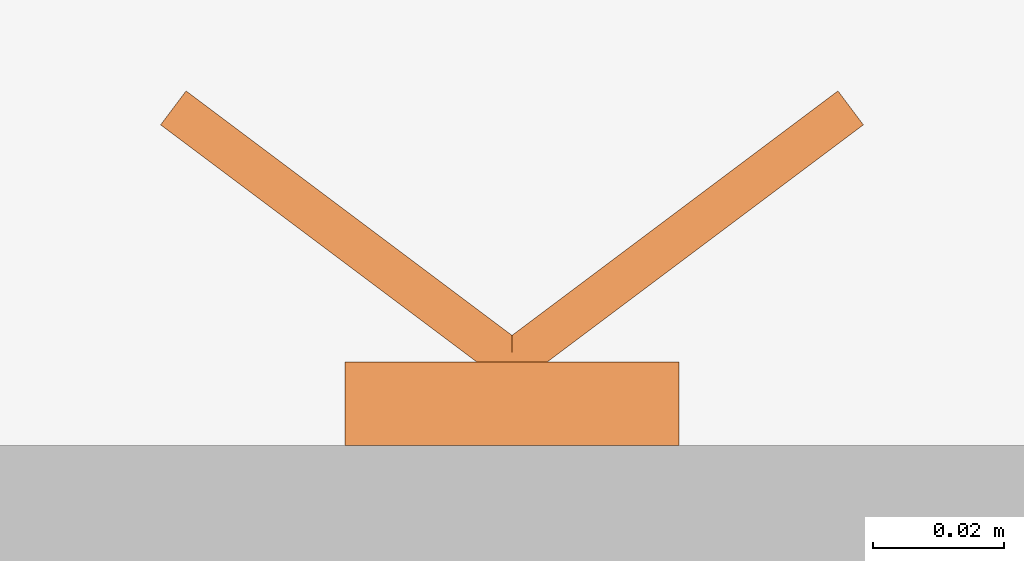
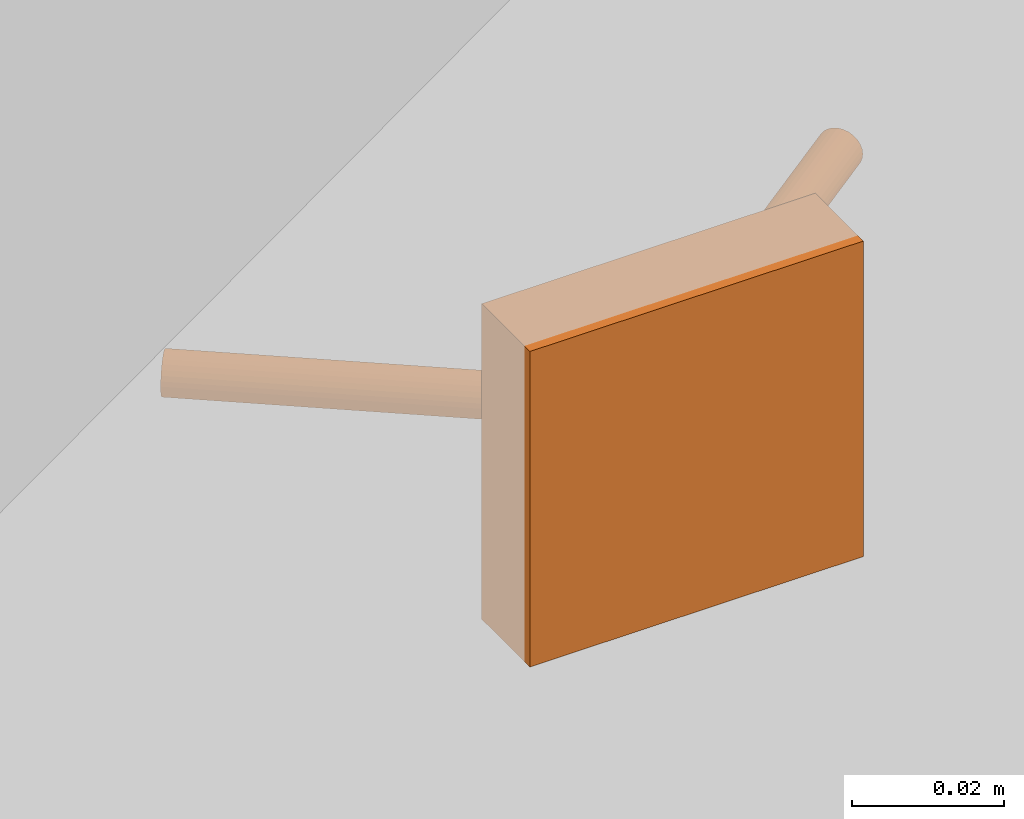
# One storey, part 118 of 142: 1 proxy.
"""IFC2X3 building model written with IfcOpenShell, lengths in feet."""

import ifcopenshell
import ifcopenshell.guid

model = None  # the IFC model being written
_history = None  # IfcOwnerHistory: only IFC2X3 demands one
_inside = {}  # id of a spatial element -> (the spatial element, [elements in it])
_under = {}  # id of a project, library or spatial element -> (it, [spatial elements below it])
_declared = {}  # id of a project -> (the project, [libraries it declares])
_typed = {}  # id of a type object -> (the type object, [elements of that type])
_made_of = {}  # id of a material, layer set ... -> (it, [elements and type objects made of it])


def new_model(schema):
    """Start an empty IFC model of exactly this schema.

    Asked for "IFC4X3", IfcOpenShell would pick the latest addendum, in which some entities
    have other attributes; the version numbers below select the first issue.
    IFC2X3 requires an IfcOwnerHistory on every rooted entity: one is made here for all.
    """
    global model, _history
    if schema == "IFC4X3":
        model = ifcopenshell.file(schema_version=(4, 3, 0, 0))
    else:
        model = ifcopenshell.file(schema=schema)
    _inside.clear()
    _under.clear()
    _declared.clear()
    _typed.clear()
    _made_of.clear()
    _history = None
    if model.schema == "IFC2X3":
        org = make("IfcOrganization", Name="unknown")
        user = make(
            "IfcPersonAndOrganization",
            ThePerson=make("IfcPerson", FamilyName="unknown"),
            TheOrganization=org,
        )
        app = make(
            "IfcApplication",
            ApplicationDeveloper=org,
            Version="unknown",
            ApplicationFullName="unknown",
            ApplicationIdentifier="unknown",
        )
        _history = make(
            "IfcOwnerHistory",
            OwningUser=user,
            OwningApplication=app,
            ChangeAction="ADDED",
            CreationDate=0,
        )
    return model


def make(cls, **values):
    """One entity of the class cls with the attributes given. An attribute that is None is left unset."""
    return model.create_entity(
        cls, **{name: value for name, value in values.items() if value is not None}
    )


def entity(cls, *values):
    """Any entity or typed value of the class cls, its attributes in the order of the schema. None: left unset."""
    e = model.create_entity(cls)
    for i, value in enumerate(values):
        if value is not None:
            e[i] = value
    return e


def rooted(cls, **values):
    """An entity with a GlobalId (a new one), such as an element, a storey or a relation."""
    return make(cls, GlobalId=ifcopenshell.guid.new(), OwnerHistory=_history, **values)


def si_unit(unit_type, name, prefix=None):
    """IfcSIUnit, for example si_unit("LENGTHUNIT", "METRE", prefix="MILLI")."""
    return make("IfcSIUnit", UnitType=unit_type, Prefix=prefix, Name=name)


def converted_unit(unit_type, name, factor, base, dimensions=None, offset=None):
    """IfcConversionBasedUnit, such as the inch: factor (a typed value) times the base unit."""
    return make(
        "IfcConversionBasedUnit"
        if offset is None
        else "IfcConversionBasedUnitWithOffset",
        ConversionOffset=offset,
        Dimensions=None
        if dimensions is None
        else entity("IfcDimensionalExponents", *dimensions),
        UnitType=unit_type,
        Name=name,
        ConversionFactor=make(
            "IfcMeasureWithUnit", ValueComponent=factor, UnitComponent=base
        ),
    )


def derived_unit(unit_type, elements):
    """IfcDerivedUnit: a product of units, each with its exponent."""
    return make(
        "IfcDerivedUnit",
        Elements=[
            make("IfcDerivedUnitElement", Unit=unit, Exponent=power)
            for unit, power in elements
        ],
        UnitType=unit_type,
    )


def assignment(units):
    """IfcUnitAssignment: the units of a project."""
    return None if units is None else make("IfcUnitAssignment", Units=units)


def point(xyz):
    """IfcCartesianPoint."""
    return None if xyz is None else make("IfcCartesianPoint", Coordinates=xyz)


def direction(xyz):
    """IfcDirection."""
    return None if xyz is None else make("IfcDirection", DirectionRatios=xyz)


def frame(location, z_axis=None, x_axis=None):
    """IfcAxis2Placement3D, a coordinate frame: its origin and axes. An axis left out is left unset."""
    return make(
        "IfcAxis2Placement3D",
        Location=point(location),
        Axis=direction(z_axis),
        RefDirection=direction(x_axis),
    )


def frame_2d(location, x_axis=None):
    """IfcAxis2Placement2D, a coordinate frame in the plane: its origin and x axis."""
    return make(
        "IfcAxis2Placement2D", Location=point(location), RefDirection=direction(x_axis)
    )


def origin():
    """The frame at (0, 0, 0) with its axes left unset."""
    return frame((0.0, 0.0, 0.0))


def origin_2d_with_axis():
    """The frame at (0, 0) in the plane with the x axis (1, 0) written out."""
    return frame_2d((0.0, 0.0), x_axis=(1.0, 0.0))


def place(relative_to, where):
    """IfcLocalPlacement: puts the frame where relative to a parent placement (None: the world)."""
    return make(
        "IfcLocalPlacement", PlacementRelTo=relative_to, RelativePlacement=where
    )


def context(
    kind, dimensions, precision=None, world=None, true_north=None, identifier=None
):
    """IfcGeometricRepresentationContext, for example the 3D "Model" context."""
    return make(
        "IfcGeometricRepresentationContext",
        ContextIdentifier=identifier,
        ContextType=kind,
        CoordinateSpaceDimension=dimensions,
        Precision=precision,
        WorldCoordinateSystem=world,
        TrueNorth=true_north,
    )


def subcontext(parent, identifier, kind, view, scale=None):
    """IfcGeometricRepresentationSubContext, for example "Body" below "Model"."""
    return make(
        "IfcGeometricRepresentationSubContext",
        ContextIdentifier=identifier,
        ContextType=kind,
        ParentContext=parent,
        TargetScale=scale,
        TargetView=view,
    )


def project(units=None, contexts=None):
    """IfcProject with its units and contexts."""
    return rooted(
        "IfcProject",
        Name="project",
        RepresentationContexts=contexts,
        UnitsInContext=assignment(units),
    )


def spatial(cls, under=None, at=None, **own):
    """A site, building, storey or space (cls), placed at a placement, below another one or the project."""
    s = rooted(cls, ObjectPlacement=at, **own)
    if under is not None:
        _under.setdefault(under.id(), (under, []))[1].append(s)
    return s


def profile(cls, at=None, kind="AREA", **sizes):
    """A parametric profile (cls). Its sizes go by their IFC names, for example OverallWidth=200.0."""
    return make(cls, ProfileType=kind, Position=at, **sizes)


def rectangle(**sizes):
    """IfcRectangleProfileDef."""
    return profile("IfcRectangleProfileDef", **sizes)


def circle(**sizes):
    """IfcCircleProfileDef."""
    return profile("IfcCircleProfileDef", **sizes)


def extrude(swept, where, along, depth):
    """IfcExtrudedAreaSolid: the profile swept, set in the frame where, extruded along a direction by depth."""
    return make(
        "IfcExtrudedAreaSolid",
        SweptArea=swept,
        Position=where,
        ExtrudedDirection=direction(along),
        Depth=depth,
    )


def shape(context_of_items, identifier, shape_type, items):
    """IfcShapeRepresentation: the items that make up one representation, for example the "Body"."""
    return make(
        "IfcShapeRepresentation",
        ContextOfItems=context_of_items,
        RepresentationIdentifier=identifier,
        RepresentationType=shape_type,
        Items=items,
    )


def source(mapping_origin, context_of_items, identifier, shape_type, items):
    """IfcRepresentationMap: a shape defined once, which mapped items show again and again."""
    return make(
        "IfcRepresentationMap",
        MappingOrigin=mapping_origin,
        MappedRepresentation=shape(context_of_items, identifier, shape_type, items),
    )


def transform(
    local_origin,
    x_axis=None,
    y_axis=None,
    z_axis=None,
    scale=None,
    scale2=None,
    scale3=None,
    uniform=True,
):
    """IfcCartesianTransformationOperator3D, or its non-uniform kind. x_axis, y_axis, z_axis: its Axis1, 2, 3."""
    if uniform:
        return make(
            "IfcCartesianTransformationOperator3D",
            Axis1=direction(x_axis),
            Axis2=direction(y_axis),
            LocalOrigin=point(local_origin),
            Scale=scale,
            Axis3=direction(z_axis),
        )
    return make(
        "IfcCartesianTransformationOperator3DnonUniform",
        Axis1=direction(x_axis),
        Axis2=direction(y_axis),
        LocalOrigin=point(local_origin),
        Scale=scale,
        Axis3=direction(z_axis),
        Scale2=scale2,
        Scale3=scale3,
    )


def mapped(mapping_source, mapping_target):
    """IfcMappedItem: shows the shape of a source again, moved by a transform."""
    return make(
        "IfcMappedItem", MappingSource=mapping_source, MappingTarget=mapping_target
    )


def made_of(thing, what):
    """Note that an element or type object is made of a material, layer set ...; save() writes the relation."""
    if what is not None:
        _made_of.setdefault(what.id(), (what, []))[1].append(thing)
    return thing


def type_object(cls, material=None, **own):
    """A type object (cls), such as IfcWallType, which elements share."""
    return made_of(rooted(cls, **own), material)


def type_shapes(of_type, sources):
    """Give a type object the sources (RepresentationMaps) that its elements show as mapped items."""
    of_type.RepresentationMaps = sources


def element(
    cls,
    number,
    at=None,
    inside=None,
    cuts=None,
    type_object=None,
    material=None,
    context=None,
    identifier="Body",
    shape_type=None,
    held_by="IfcProductDefinitionShape",
    body=None,
    shapes=None,
    **own,
):
    """One element of the class cls, such as IfcWall. Its Tag is "e" and its number.

    at: its placement. inside: the storey or other place that contains it. cuts: it is an
    opening in that element (IfcRelVoidsElement). A single representation is given by context,
    identifier, shape_type and body (its items); several are given by shapes. held_by: the class
    of the entity that holds the representations. save() writes the other relations.
    """
    e = rooted(cls, Tag="e%d" % number, ObjectPlacement=at, **own)
    if body is not None:
        shapes = [shape(context, identifier, shape_type, body)]
    if shapes is not None:
        e.Representation = make(held_by, Representations=shapes)
    if inside is not None:
        _inside.setdefault(inside.id(), (inside, []))[1].append(e)
    if cuts is not None:
        rooted(
            "IfcRelVoidsElement", RelatingBuildingElement=cuts, RelatedOpeningElement=e
        )
    if type_object is not None:
        _typed.setdefault(type_object.id(), (type_object, []))[1].append(e)
    return made_of(e, material)


def aggregate(whole, parts):
    """IfcRelAggregates: a whole, such as a stair, and the parts it consists of."""
    return rooted("IfcRelAggregates", RelatingObject=whole, RelatedObjects=parts)


def save(model, path):
    """Write the relations noted so far, then the file.

    IfcRelAggregates (storeys below a building ...), IfcRelContainedInSpatialStructure (elements
    in a storey), IfcRelDefinesByType, IfcRelAssociatesMaterial and IfcRelDeclares: one each for
    every whole, place, type object, material and project.
    """
    for whole, parts in _under.values():
        aggregate(whole, parts)
    for where, things in _inside.values():
        rooted(
            "IfcRelContainedInSpatialStructure",
            RelatedElements=things,
            RelatingStructure=where,
        )
    for kind, things in _typed.values():
        rooted("IfcRelDefinesByType", RelatedObjects=things, RelatingType=kind)
    for what, things in _made_of.values():
        rooted("IfcRelAssociatesMaterial", RelatedObjects=things, RelatingMaterial=what)
    for by, libraries in _declared.values():
        rooted("IfcRelDeclares", RelatingContext=by, RelatedDefinitions=libraries)
    model.write(path)


model = new_model("IFC2X3")

# Units and contexts
model_context = context("Model", 3, precision=0.0001, world=origin(), true_north=direction((6.12303176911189e-17, 1.0)))
body_context = subcontext(model_context, "Body", "Model", "MODEL_VIEW")
ifc_project = project(units=[converted_unit("LENGTHUNIT", "FOOT", entity("IfcRatioMeasure", 0.3048), si_unit("LENGTHUNIT", "METRE"), dimensions=[1, 0, 0, 0, 0, 0, 0]), converted_unit("AREAUNIT", "SQUARE FOOT", entity("IfcRatioMeasure", 0.09290304), si_unit("AREAUNIT", "SQUARE_METRE"), dimensions=[2, 0, 0, 0, 0, 0, 0]), converted_unit("VOLUMEUNIT", "CUBIC FOOT", entity("IfcRatioMeasure", 0.028316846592), si_unit("VOLUMEUNIT", "CUBIC_METRE"), dimensions=[3, 0, 0, 0, 0, 0, 0]), converted_unit("PLANEANGLEUNIT", "DEGREE", entity("IfcRatioMeasure", 0.0174532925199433), si_unit("PLANEANGLEUNIT", "RADIAN"), dimensions=[0, 0, 0, 0, 0, 0, 0]), si_unit("MASSUNIT", "GRAM", prefix="KILO"), derived_unit("MASSDENSITYUNIT", [(si_unit("MASSUNIT", "GRAM", prefix="KILO"), 1), (si_unit("LENGTHUNIT", "METRE"), -3)]), si_unit("TIMEUNIT", "SECOND"), si_unit("FREQUENCYUNIT", "HERTZ"), si_unit("THERMODYNAMICTEMPERATUREUNIT", "DEGREE_CELSIUS"), derived_unit("THERMALTRANSMITTANCEUNIT", [(si_unit("MASSUNIT", "GRAM", prefix="KILO"), 1), (si_unit("THERMODYNAMICTEMPERATUREUNIT", "KELVIN"), -1), (si_unit("TIMEUNIT", "SECOND"), -3)]), derived_unit("VOLUMETRICFLOWRATEUNIT", [(si_unit("LENGTHUNIT", "METRE"), 3), (si_unit("TIMEUNIT", "SECOND"), -1)]), si_unit("ELECTRICCURRENTUNIT", "AMPERE"), si_unit("ELECTRICVOLTAGEUNIT", "VOLT"), si_unit("POWERUNIT", "WATT"), si_unit("FORCEUNIT", "NEWTON"), si_unit("ILLUMINANCEUNIT", "LUX"), si_unit("LUMINOUSFLUXUNIT", "LUMEN"), si_unit("LUMINOUSINTENSITYUNIT", "CANDELA"), derived_unit("USERDEFINED", [(si_unit("MASSUNIT", "GRAM", prefix="KILO"), -1), (si_unit("LENGTHUNIT", "METRE"), -2), (si_unit("TIMEUNIT", "SECOND"), 3), (si_unit("LUMINOUSFLUXUNIT", "LUMEN"), 1)]), derived_unit("LINEARVELOCITYUNIT", [(si_unit("LENGTHUNIT", "METRE"), 1), (si_unit("TIMEUNIT", "SECOND"), -1)]), si_unit("PRESSUREUNIT", "PASCAL"), derived_unit("USERDEFINED", [(si_unit("LENGTHUNIT", "METRE"), -2), (si_unit("MASSUNIT", "GRAM", prefix="KILO"), 1), (si_unit("TIMEUNIT", "SECOND"), -2)])], contexts=[model_context])

# Site, building, storey, space
site_placement = place(None, origin())
site = spatial("IfcSite", under=ifc_project, at=site_placement, Name="Default", CompositionType="ELEMENT")
building_placement = place(site_placement, origin())
building = spatial("IfcBuilding", under=site, at=building_placement, Name="OUTPATIENT / PACT CLINIC (Ch. 265)", CompositionType="ELEMENT")
storey_placement = place(building_placement, origin())
storey = spatial("IfcBuildingStorey", under=building, at=storey_placement, Name="LEVEL 1", CompositionType="ELEMENT", Elevation=0.0)
space_placement = place(storey_placement, origin())
space = spatial("IfcSpace", under=storey, at=space_placement, Name="EXPA1", CompositionType="ELEMENT", InteriorOrExteriorSpace="INTERNAL")

# Proxy
building_element_proxy_type = type_object("IfcBuildingElementProxyType", Name="A5145 - Hook, Garment, Double", PredefinedType="NOTDEFINED")
shared_shape = source(origin(), body_context, "Body", "SweptSolid", [
    extrude(circle(Radius=0.0105952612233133, at=frame_2d((-1.64551454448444e-31, -4.16333634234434e-17), x_axis=(1.0, 0.0))), frame((-0.169086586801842, -0.168481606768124, 0.0833333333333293), z_axis=(0.799999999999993, 0.60000000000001, 0.0), x_axis=(0.60000000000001, -0.799999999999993, 0.0)), (0.0, 0.0, 1.0), 0.211358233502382),
    extrude(circle(Radius=0.0105952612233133, at=frame_2d((5.2041704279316e-19, 2.77555756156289e-17), x_axis=(1.0, 0.0))), frame((0.0, -0.0416666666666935, 0.083333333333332), z_axis=(0.799999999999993, -0.60000000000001, 0.0), x_axis=(-0.60000000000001, -0.799999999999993, 0.0)), (0.0, 0.0, 1.0), 0.211358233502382),
    extrude(rectangle(XDim=0.0416666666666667, YDim=0.166666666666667, at=origin_2d_with_axis()), frame((0.0, -0.0208333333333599, 0.0), z_axis=(0.0, 0.0, 1.0), x_axis=(0.0, 1.0, 0.0)), (0.0, 0.0, 1.0), 0.166666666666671),
])
type_shapes(building_element_proxy_type, [shared_shape])
proxy_placement = place(space_placement, frame((445.890393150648, -903.628851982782, 4.0), z_axis=(0.0, 0.0, 1.0), x_axis=(-1.0, 0.0, 0.0)))
element("IfcBuildingElementProxy", 1, at=proxy_placement, inside=space, type_object=building_element_proxy_type, Name="A5145 - Hook, Garment, Double:A5145 - Hook, Garment, Double", ObjectType="A5145 - Hook, Garment, Double", context=body_context, shape_type="MappedRepresentation", body=[
    mapped(shared_shape, transform((0.0, 0.0, 0.0), scale=1.0)),
])

save(model, "model.ifc")
